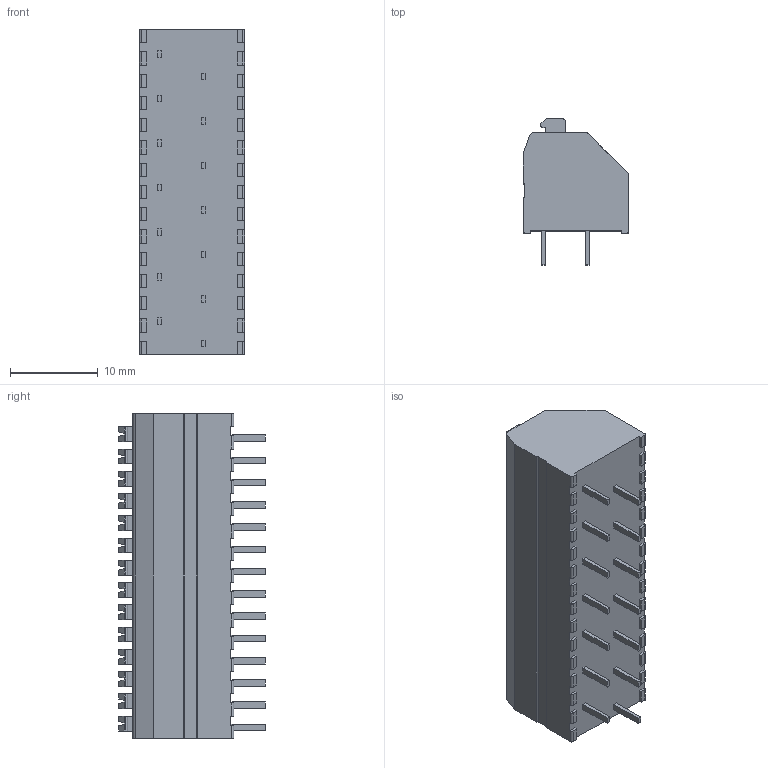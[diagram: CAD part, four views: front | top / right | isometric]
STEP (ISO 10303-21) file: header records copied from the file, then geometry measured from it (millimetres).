
FILE_DESCRIPTION(/* description */ ('STEP AP214'),/* implementation_level */ '2;1');
FILE_NAME(/* name */ '250-1414',/* time_stamp */ '2022-10-03T17:49:19+02:00',/* author */ ('License CC BY-ND 4.0'),/* organization */ ('CADENAS'),/* preprocessor_version */ 'ST-DEVELOPER v18.102',/* originating_system */ 'PARTsolutions',/* authorisation */ ' ');
FILE_SCHEMA (('AUTOMOTIVE_DESIGN {1 0 10303 214 3 1 1}'));
Length unit declared in the file: millimetre
Products named in the file (1): 250-1414
Bounding box: 12 x 16.7 x 37.06 mm (x, y, z)
Volume: 4506.1 mm3; surface area: 2356.9 mm2
Topology: 1 solids, 1 shells, 637 faces, 1737 edges, 1130 vertices
Faces by surface type: plane 490, cylinder 119, cone 28
Entity records: 19931 total; most frequent: CARTESIAN_POINT 3505, ORIENTED_EDGE 3474, DIRECTION 3335, EDGE_CURVE 1737, LINE 1415, VECTOR 1415, VERTEX_POINT 1130, AXIS2_PLACEMENT_3D 960
